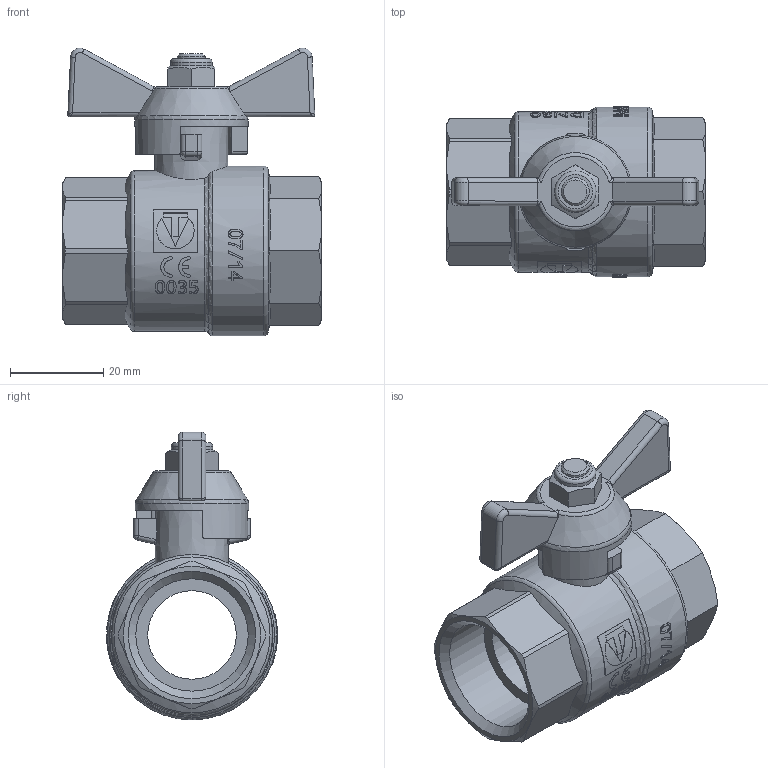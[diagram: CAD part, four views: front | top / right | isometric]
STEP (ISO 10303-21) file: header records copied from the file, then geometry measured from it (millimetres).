
FILE_DESCRIPTION(('TFLEX Exchange Step'),'2;1');
FILE_NAME('Ball valve DN20, 3_4 VT.217.N.05 Valtec.stp', '2023-09-12T15:28:01+03:00',('denis'),('Unknown organisation'),'TFLEX Exchange 2023.0','T-FLEX CAD','Unknown authorisation');
FILE_SCHEMA( ('AUTOMOTIVE_DESIGN { 1 0 10303 214 1 1 1 1 }') );
Length unit declared in the file: millimetre
Products named in the file (1): Nodes
Bounding box: 55.5 x 36.64 x 61.74 mm (x, y, z)
Volume: 36012.5 mm3; surface area: 14507.5 mm2
Topology: 3 solids, 3 shells, 536 faces, 1399 edges, 916 vertices
Faces by surface type: plane 205, bspline 194, cylinder 101, cone 19, torus 13, sphere 4
Full cylindrical faces by diameter (mm): 6 x1, 8.9 x1, 19 x1, 24.1 x2, 24.322 x1, 34.458 x1, 36.444 x1
Entity records: 24007 total; most frequent: CARTESIAN_POINT 12446, ORIENTED_EDGE 2794, DIRECTION 1694, EDGE_CURVE 1397, VERTEX_POINT 916, B_SPLINE_CURVE_WITH_KNOTS 651, AXIS2_PLACEMENT_3D 627, EDGE_LOOP 587
